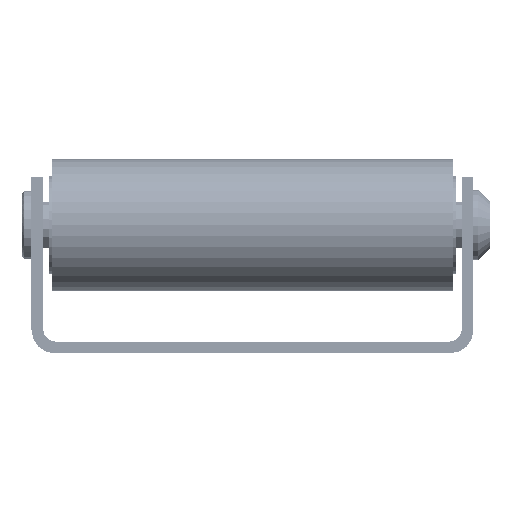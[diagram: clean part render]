
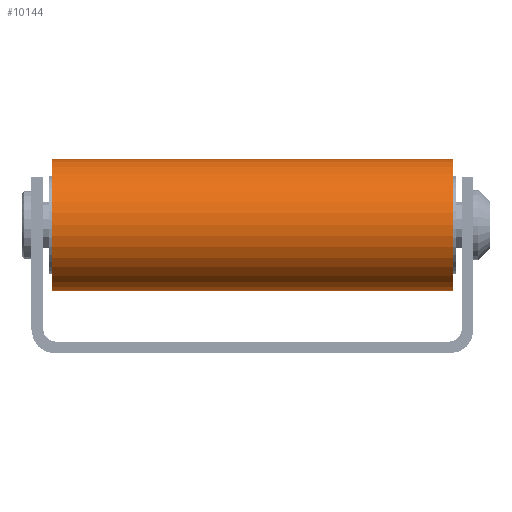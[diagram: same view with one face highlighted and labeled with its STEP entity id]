
A CAD part, front view. The second image highlights one B-rep face of the part: STEP entity #10144.
In plain terms, the highlighted cylindrical face has radius 5.625 mm (diameter 11.25 mm), a full revolution.
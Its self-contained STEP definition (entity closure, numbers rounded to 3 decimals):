
#1739=CYLINDRICAL_SURFACE('',#11392,5.625);
#2506=CIRCLE('',#11393,5.625);
#2507=CIRCLE('',#11394,5.625);
#4429=ORIENTED_EDGE('',*,*,#5413,.F.);
#4430=ORIENTED_EDGE('',*,*,#5414,.F.);
#5413=EDGE_CURVE('',#6286,#6286,#2506,.F.);
#5414=EDGE_CURVE('',#6287,#6287,#2507,.F.);
#6286=VERTEX_POINT('',#17311);
#6287=VERTEX_POINT('',#17313);
#8143=EDGE_LOOP('',(#4429));
#8144=EDGE_LOOP('',(#4430));
#9623=FACE_BOUND('',#8143,.T.);
#9624=FACE_BOUND('',#8144,.T.);
#10144=ADVANCED_FACE('',(#9623,#9624),#1739,.T.);
#11392=AXIS2_PLACEMENT_3D('',#17309,#14338,#14339);
#11393=AXIS2_PLACEMENT_3D('',#17310,#14340,#14341);
#11394=AXIS2_PLACEMENT_3D('',#17312,#14342,#14343);
#14338=DIRECTION('',(0.,1.,0.));
#14339=DIRECTION('',(0.,0.,1.));
#14340=DIRECTION('',(0.,-1.,0.));
#14341=DIRECTION('',(0.,0.,-1.));
#14342=DIRECTION('',(0.,1.,0.));
#14343=DIRECTION('',(0.,0.,1.));
#17309=CARTESIAN_POINT('',(0.,-17.25,0.));
#17310=CARTESIAN_POINT('',(0.,17.,0.));
#17311=CARTESIAN_POINT('',(0.,17.,-5.625));
#17312=CARTESIAN_POINT('',(0.,-17.,0.));
#17313=CARTESIAN_POINT('',(0.,-17.,5.625));
